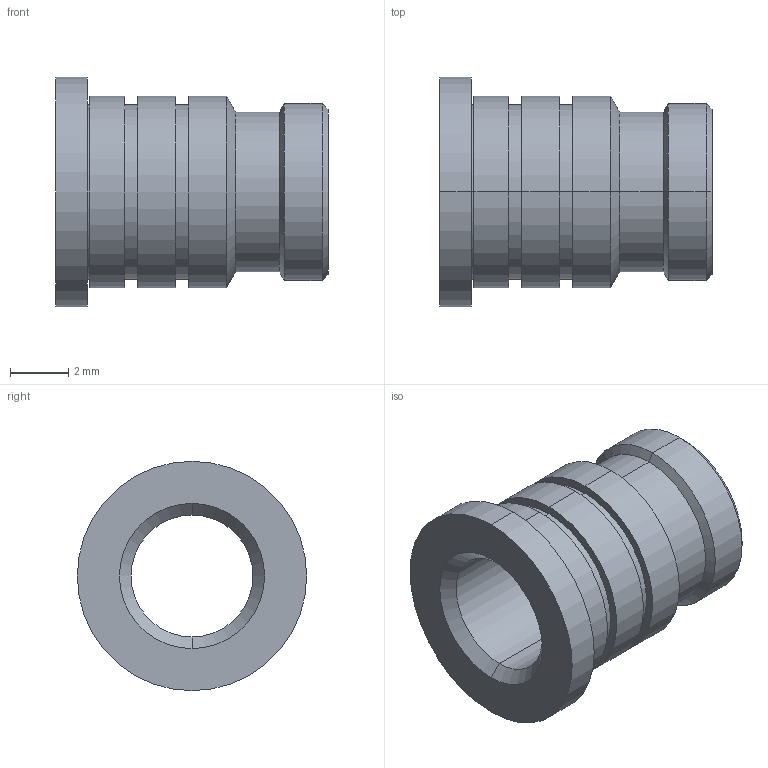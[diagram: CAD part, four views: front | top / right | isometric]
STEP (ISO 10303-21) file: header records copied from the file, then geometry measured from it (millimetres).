
FILE_DESCRIPTION (( 'STEP AP203' ), '1' );
FILE_NAME ('FSUK-MUH-M05-S.STEP', '2021-04-15T13:23:01', ( '' ), ( '' ), 'SwSTEP 2.0', 'SolidWorks 2021', '' );
FILE_SCHEMA (( 'CONFIG_CONTROL_DESIGN' ));
Length unit declared in the file: millimetre
Products named in the file (1): FSUK-MUH-M05-S
Bounding box: 9.37 x 7.9 x 7.9 mm (x, y, z)
Volume: 171.7 mm3; surface area: 413.9 mm2
Topology: 1 solids, 1 shells, 38 faces, 76 edges, 46 vertices
Faces by surface type: cylinder 20, cone 10, plane 8
Entity records: 1075 total; most frequent: DIRECTION 200, CARTESIAN_POINT 161, ORIENTED_EDGE 152, AXIS2_PLACEMENT_3D 85, EDGE_CURVE 76, EDGE_LOOP 46, CIRCLE 46, VERTEX_POINT 46
